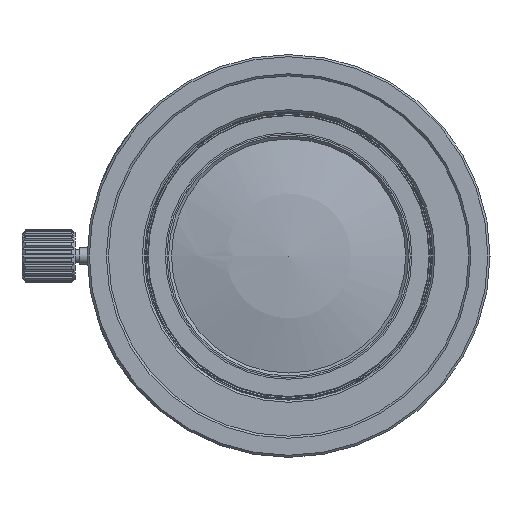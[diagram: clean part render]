
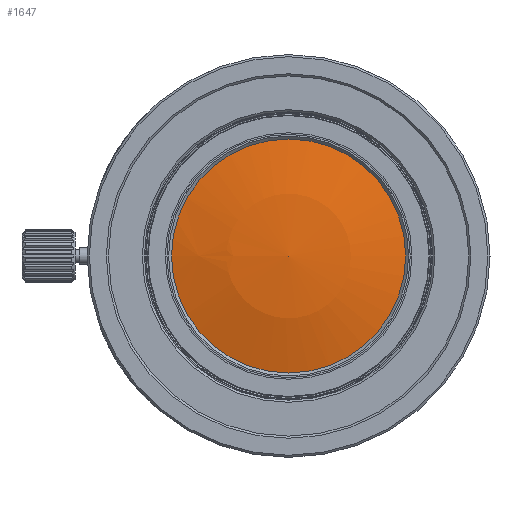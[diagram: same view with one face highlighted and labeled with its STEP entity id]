
A CAD part, left-side view. The second image highlights one B-rep face of the part: STEP entity #1647.
In plain terms, the highlighted spherical face has radius 43.901 mm.
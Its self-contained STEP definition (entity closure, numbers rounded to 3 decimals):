
#1233=SPHERICAL_SURFACE('',#5974,43.901);
#1352=FACE_OUTER_BOUND('',#2475,.T.);
#1647=ADVANCED_FACE('',(#1352),#1233,.T.);
#2475=EDGE_LOOP('',(#3525));
#3525=ORIENTED_EDGE('',*,*,#5120,.F.);
#4467=VERTEX_POINT('',#9613);
#5120=EDGE_CURVE('',#4467,#4467,#5554,.T.);
#5554=CIRCLE('',#5972,11.65);
#5972=AXIS2_PLACEMENT_3D('',#9612,#7090,#7091);
#5974=AXIS2_PLACEMENT_3D('',#9615,#7094,#7095);
#7090=DIRECTION('',(1.,0.,0.));
#7091=DIRECTION('',(0.,0.,-1.));
#7094=DIRECTION('',(1.,0.,0.));
#7095=DIRECTION('',(0.,1.,0.));
#9612=CARTESIAN_POINT('',(-79.729,0.,0.));
#9613=CARTESIAN_POINT('',(-79.729,0.,-11.65));
#9615=CARTESIAN_POINT('',(-37.402,0.,0.));
